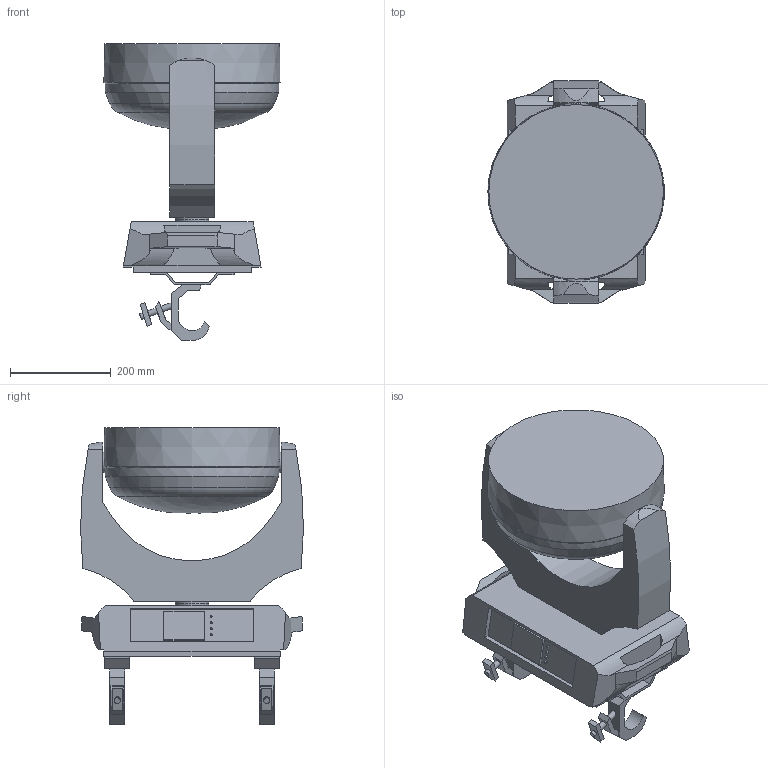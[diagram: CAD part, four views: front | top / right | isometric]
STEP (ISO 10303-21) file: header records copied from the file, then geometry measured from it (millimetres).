
FILE_DESCRIPTION( ( 'Unknown' ), '1' );
FILE_NAME( 'K:/ROBE-LED/21 Robin 1200 LED Wash/08 2D_3D symbols/RLW1200_00.stp', 'Unknown', ( '*' ), ( '*' ), 'PSStep 15.0.49', 'SolidEdge', ' ' );
FILE_SCHEMA( ( 'AUTOMOTIVE_DESIGN { 1 0 10303 214 1 1 1 1 }' ) );
Length unit declared in the file: millimetre
Products named in the file (7): Omega_SlimClamp_00; Omega+SlimClamp; Clamp Doughty Slimline QT; Assem1; Robin300Spot_Základna; RLW1200_rameno; RLW1200_hlava
Assembly tree (7 placements, depth 3):
  Assem1
    Robin300Spot_Základna
    RLW1200_rameno
    RLW1200_hlava
    Omega_SlimClamp_00  x2
      Omega+SlimClamp
      Clamp Doughty Slimline QT
Bounding box: 349.24 x 441.57 x 587.96 mm (x, y, z)
Volume: 28325562.8 mm3; surface area: 1040928.6 mm2
Topology: 7 solids, 7 shells, 211 faces, 553 edges, 373 vertices
Faces by surface type: plane 156, cylinder 48, cone 5, bspline 1, torus 1
Full cylindrical faces by diameter (mm): 3.634 x1, 4 x3, 10 x4, 11 x4, 12 x8, 13 x2, 30.65 x2, 40 x2, 44.874 x1, 65.661 x2
Entity records: 6421 total; most frequent: CARTESIAN_POINT 1184, DIRECTION 788, ORIENTED_EDGE 748, EDGE_CURVE 374, AXIS2_PLACEMENT_3D 265, VERTEX_POINT 265, LINE 258, VECTOR 258
